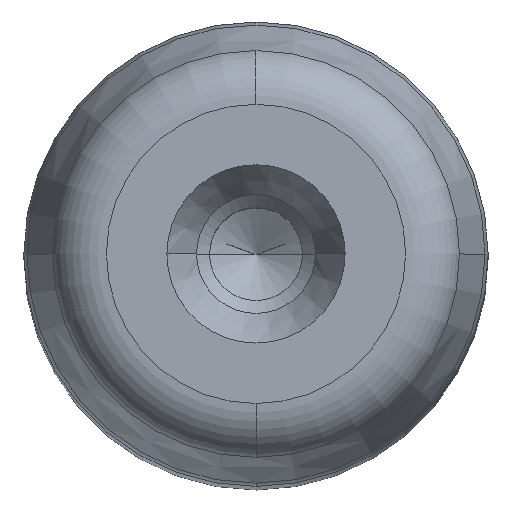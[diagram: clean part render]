
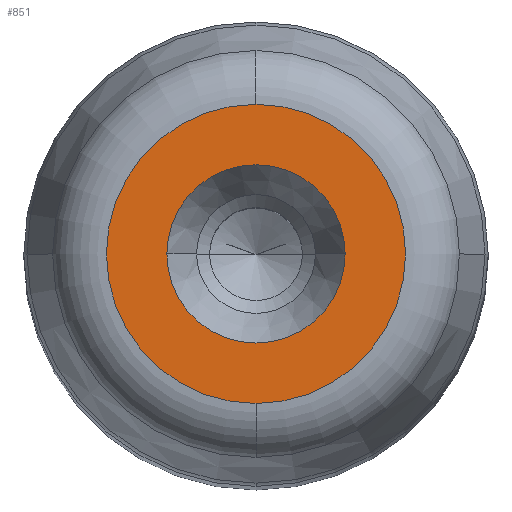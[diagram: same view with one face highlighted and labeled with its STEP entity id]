
A CAD part, top view. The second image highlights one B-rep face of the part: STEP entity #851.
In plain terms, the highlighted planar face has unit normal (0, 0, 1) as drawn and (0, 1, 0) by its records, which use the part's own axes.
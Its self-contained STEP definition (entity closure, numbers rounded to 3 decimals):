
#281=CARTESIAN_POINT('',(4.8,125.0,0.0));
#282=VERTEX_POINT('',#281);
#289=CARTESIAN_POINT('',(-4.8,125.0,0.));
#290=VERTEX_POINT('',#289);
#291=CARTESIAN_POINT('',(0.0,125.0,0.0));
#292=DIRECTION('',(0.0,1.0,0.0));
#293=DIRECTION('',(1.0,0.0,0.0));
#294=AXIS2_PLACEMENT_3D('',#291,#292,#293);
#295=CIRCLE('',#294,4.8);
#296=EDGE_CURVE('',#282,#290,#295,.T.);
#313=CARTESIAN_POINT('',(0.0,125.0,8.054));
#314=VERTEX_POINT('',#313);
#324=CARTESIAN_POINT('',(0.,125.0,-8.054));
#325=VERTEX_POINT('',#324);
#326=CARTESIAN_POINT('',(0.0,125.0,0.0));
#327=DIRECTION('',(0.0,1.0,0.0));
#328=DIRECTION('',(1.0,0.0,0.0));
#329=AXIS2_PLACEMENT_3D('',#326,#327,#328);
#330=CIRCLE('',#329,8.054);
#331=EDGE_CURVE('',#325,#314,#330,.T.);
#812=CARTESIAN_POINT('',(8.054,125.0,0.0));
#813=VERTEX_POINT('',#812);
#814=CARTESIAN_POINT('',(0.0,125.0,0.0));
#815=DIRECTION('',(0.0,1.0,0.0));
#816=DIRECTION('',(1.0,0.0,0.0));
#817=AXIS2_PLACEMENT_3D('',#814,#815,#816);
#818=CIRCLE('',#817,8.054);
#819=EDGE_CURVE('',#813,#325,#818,.T.);
#821=CARTESIAN_POINT('',(0.0,125.0,0.0));
#822=DIRECTION('',(0.0,1.0,0.0));
#823=DIRECTION('',(1.0,0.0,0.0));
#824=AXIS2_PLACEMENT_3D('',#821,#822,#823);
#825=CIRCLE('',#824,8.054);
#826=EDGE_CURVE('',#314,#813,#825,.T.);
#831=CARTESIAN_POINT('',(-8.86,125.0,-8.86));
#832=DIRECTION('',(0.0,1.0,0.0));
#833=DIRECTION('',(0.0,0.0,1.0));
#834=AXIS2_PLACEMENT_3D('',#831,#832,#833);
#835=PLANE('',#834);
#836=ORIENTED_EDGE('',*,*,#819,.T.);
#837=ORIENTED_EDGE('',*,*,#331,.T.);
#838=ORIENTED_EDGE('',*,*,#826,.T.);
#839=EDGE_LOOP('',(#836,#837,#838));
#840=FACE_OUTER_BOUND('',#839,.T.);
#841=ORIENTED_EDGE('',*,*,#296,.F.);
#842=CARTESIAN_POINT('',(0.0,125.0,0.0));
#843=DIRECTION('',(0.0,1.0,0.0));
#844=DIRECTION('',(1.0,0.0,0.0));
#845=AXIS2_PLACEMENT_3D('',#842,#843,#844);
#846=CIRCLE('',#845,4.8);
#847=EDGE_CURVE('',#290,#282,#846,.T.);
#848=ORIENTED_EDGE('',*,*,#847,.F.);
#849=EDGE_LOOP('',(#841,#848));
#850=FACE_BOUND('',#849,.T.);
#851=ADVANCED_FACE('',(#840,#850),#835,.T.);
